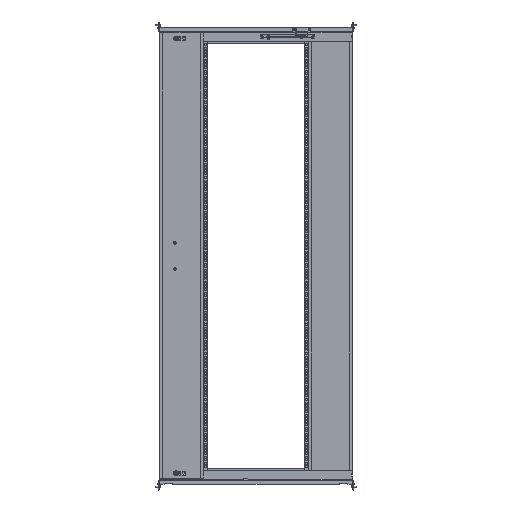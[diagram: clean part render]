
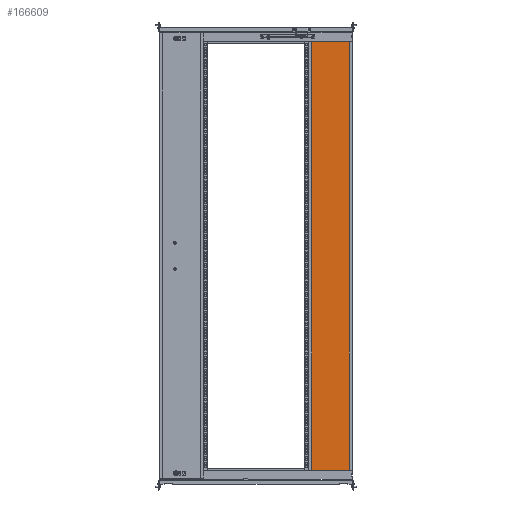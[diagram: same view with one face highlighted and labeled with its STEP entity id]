
A CAD part, top view. The second image highlights one B-rep face of the part: STEP entity #166609.
In plain terms, the highlighted planar face has unit normal (0, 0, 1).
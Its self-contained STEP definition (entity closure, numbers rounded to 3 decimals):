
#166192 = VERTEX_POINT('',#166193);
#166193 = CARTESIAN_POINT('',(-98.5,-986.9,0.));
#166199 = EDGE_CURVE('',#166200,#166192,#166202,.T.);
#166200 = VERTEX_POINT('',#166201);
#166201 = CARTESIAN_POINT('',(-98.5,986.9,0.));
#166202 = LINE('',#166203,#166204);
#166203 = CARTESIAN_POINT('',(-98.5,0.,
    0.));
#166204 = VECTOR('',#166205,1.);
#166205 = DIRECTION('',(0.,-1.,-0.));
#166380 = VERTEX_POINT('',#166381);
#166381 = CARTESIAN_POINT('',(98.5,986.9,0.));
#166387 = EDGE_CURVE('',#166388,#166380,#166390,.T.);
#166388 = VERTEX_POINT('',#166389);
#166389 = CARTESIAN_POINT('',(98.5,-986.9,0.));
#166390 = LINE('',#166391,#166392);
#166391 = CARTESIAN_POINT('',(98.5,0.,0.)
  );
#166392 = VECTOR('',#166393,1.);
#166393 = DIRECTION('',(0.,1.,0.));
#166489 = EDGE_CURVE('',#166490,#166492,#166494,.T.);
#166490 = VERTEX_POINT('',#166491);
#166491 = CARTESIAN_POINT('',(97.9,-986.9,0.));
#166492 = VERTEX_POINT('',#166493);
#166493 = CARTESIAN_POINT('',(97.9,-987.5,0.));
#166494 = LINE('',#166495,#166496);
#166495 = CARTESIAN_POINT('',(97.9,0.,0.));
#166496 = VECTOR('',#166497,1.);
#166497 = DIRECTION('',(0.,-1.,-0.));
#166609 = ADVANCED_FACE('',(#166610),#166681,.T.);
#166610 = FACE_BOUND('',#166611,.T.);
#166611 = EDGE_LOOP('',(#166612,#166620,#166628,#166634,#166635,#166641,
    #166642,#166650,#166658,#166666,#166674,#166680));
#166612 = ORIENTED_EDGE('',*,*,#166613,.F.);
#166613 = EDGE_CURVE('',#166614,#166192,#166616,.T.);
#166614 = VERTEX_POINT('',#166615);
#166615 = CARTESIAN_POINT('',(-97.9,-986.9,0.));
#166616 = LINE('',#166617,#166618);
#166617 = CARTESIAN_POINT('',(0.,-986.9,0.));
#166618 = VECTOR('',#166619,1.);
#166619 = DIRECTION('',(-1.,0.,0.));
#166620 = ORIENTED_EDGE('',*,*,#166621,.T.);
#166621 = EDGE_CURVE('',#166614,#166622,#166624,.T.);
#166622 = VERTEX_POINT('',#166623);
#166623 = CARTESIAN_POINT('',(-97.9,-987.5,0.));
#166624 = LINE('',#166625,#166626);
#166625 = CARTESIAN_POINT('',(-97.9,-986.9,0.));
#166626 = VECTOR('',#166627,1.);
#166627 = DIRECTION('',(-0.,-1.,-0.));
#166628 = ORIENTED_EDGE('',*,*,#166629,.F.);
#166629 = EDGE_CURVE('',#166492,#166622,#166630,.T.);
#166630 = LINE('',#166631,#166632);
#166631 = CARTESIAN_POINT('',(0.,-987.5,0.));
#166632 = VECTOR('',#166633,1.);
#166633 = DIRECTION('',(-1.,-0.,-0.));
#166634 = ORIENTED_EDGE('',*,*,#166489,.F.);
#166635 = ORIENTED_EDGE('',*,*,#166636,.T.);
#166636 = EDGE_CURVE('',#166490,#166388,#166637,.T.);
#166637 = LINE('',#166638,#166639);
#166638 = CARTESIAN_POINT('',(97.9,-986.9,0.));
#166639 = VECTOR('',#166640,1.);
#166640 = DIRECTION('',(1.,-0.,-0.));
#166641 = ORIENTED_EDGE('',*,*,#166387,.T.);
#166642 = ORIENTED_EDGE('',*,*,#166643,.F.);
#166643 = EDGE_CURVE('',#166644,#166380,#166646,.T.);
#166644 = VERTEX_POINT('',#166645);
#166645 = CARTESIAN_POINT('',(97.9,986.9,0.));
#166646 = LINE('',#166647,#166648);
#166647 = CARTESIAN_POINT('',(0.,986.9,0.));
#166648 = VECTOR('',#166649,1.);
#166649 = DIRECTION('',(1.,0.,0.));
#166650 = ORIENTED_EDGE('',*,*,#166651,.T.);
#166651 = EDGE_CURVE('',#166644,#166652,#166654,.T.);
#166652 = VERTEX_POINT('',#166653);
#166653 = CARTESIAN_POINT('',(97.9,987.5,0.));
#166654 = LINE('',#166655,#166656);
#166655 = CARTESIAN_POINT('',(97.9,986.9,0.));
#166656 = VECTOR('',#166657,1.);
#166657 = DIRECTION('',(-0.,1.,0.));
#166658 = ORIENTED_EDGE('',*,*,#166659,.T.);
#166659 = EDGE_CURVE('',#166652,#166660,#166662,.T.);
#166660 = VERTEX_POINT('',#166661);
#166661 = CARTESIAN_POINT('',(-97.9,987.5,0.));
#166662 = LINE('',#166663,#166664);
#166663 = CARTESIAN_POINT('',(0.,987.5,
    0.));
#166664 = VECTOR('',#166665,1.);
#166665 = DIRECTION('',(-1.,0.,0.));
#166666 = ORIENTED_EDGE('',*,*,#166667,.F.);
#166667 = EDGE_CURVE('',#166668,#166660,#166670,.T.);
#166668 = VERTEX_POINT('',#166669);
#166669 = CARTESIAN_POINT('',(-97.9,986.9,0.)
  );
#166670 = LINE('',#166671,#166672);
#166671 = CARTESIAN_POINT('',(-97.9,0.,0.));
#166672 = VECTOR('',#166673,1.);
#166673 = DIRECTION('',(-0.,1.,-0.));
#166674 = ORIENTED_EDGE('',*,*,#166675,.T.);
#166675 = EDGE_CURVE('',#166668,#166200,#166676,.T.);
#166676 = LINE('',#166677,#166678);
#166677 = CARTESIAN_POINT('',(-97.9,986.9,0.));
#166678 = VECTOR('',#166679,1.);
#166679 = DIRECTION('',(-1.,-0.,-0.));
#166680 = ORIENTED_EDGE('',*,*,#166199,.T.);
#166681 = PLANE('',#166682);
#166682 = AXIS2_PLACEMENT_3D('',#166683,#166684,#166685);
#166683 = CARTESIAN_POINT('',(0.,0.,0.));
#166684 = DIRECTION('',(0.,-0.,1.));
#166685 = DIRECTION('',(1.,0.,0.));
